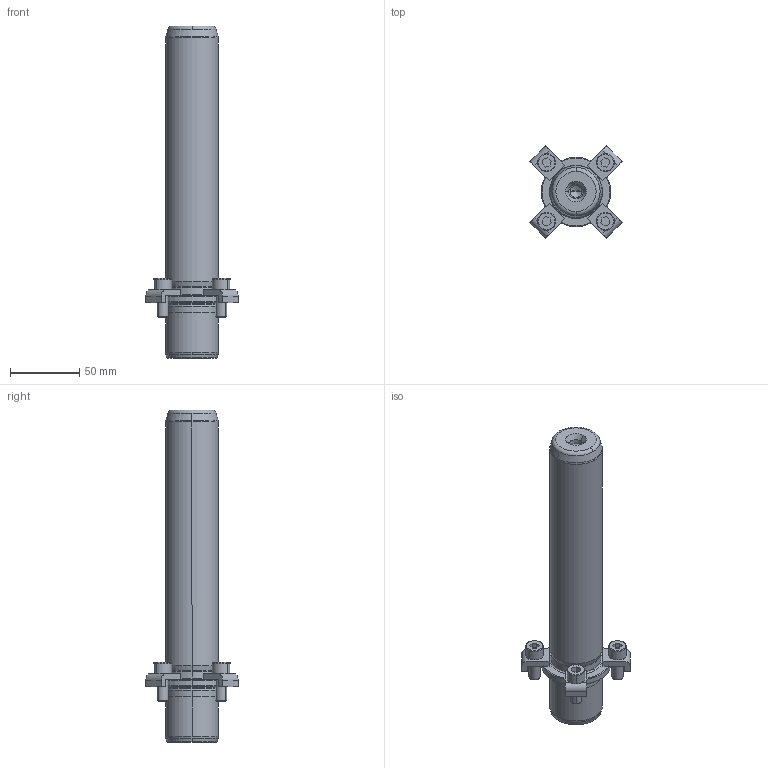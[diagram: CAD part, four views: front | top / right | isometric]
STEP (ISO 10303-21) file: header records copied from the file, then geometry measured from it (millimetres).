
FILE_DESCRIPTION((''),'2;1');
FILE_NAME('P21_038_200.stp','2008-12-23T10:55:53',(''),(''),'Mechanical Desktop 2009','Mechanical Desktop 2009',', , ');
FILE_SCHEMA(('CONFIG_CONTROL_DESIGN'));
Length unit declared in the file: millimetre
Products named in the file (2): Product; blmdl1
Assembly tree (1 placements, depth 2):
  Product
    blmdl1
Bounding box: 66.82 x 66.82 x 240 mm (x, y, z)
Volume: 283118.2 mm3; surface area: 42987.9 mm2
Topology: 9 solids, 9 shells, 195 faces, 477 edges, 309 vertices
Faces by surface type: plane 77, cylinder 52, cone 34, torus 16, bspline 16
Entity records: 6547 total; most frequent: CARTESIAN_POINT 1683, DIRECTION 1078, ORIENTED_EDGE 946, EDGE_CURVE 473, AXIS2_PLACEMENT_3D 424, VERTEX_POINT 309, CIRCLE 243, VECTOR 230
